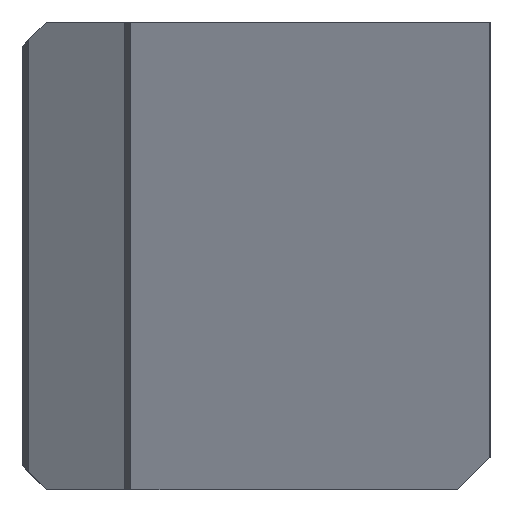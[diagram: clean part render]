
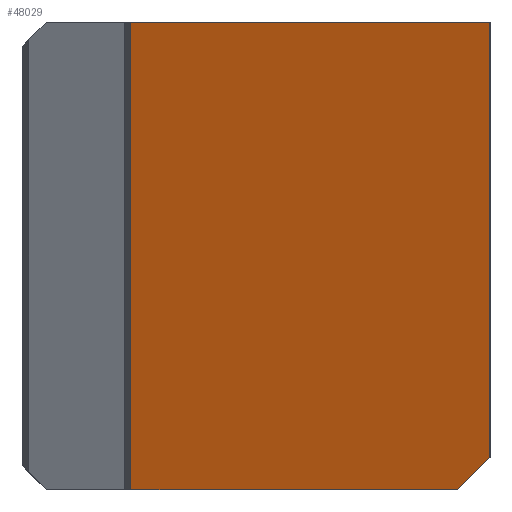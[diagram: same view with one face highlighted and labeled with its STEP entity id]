
A CAD part, left-side view. The second image highlights one B-rep face of the part: STEP entity #48029.
In plain terms, the highlighted planar face has unit normal (-0.943, 0, -0.334).
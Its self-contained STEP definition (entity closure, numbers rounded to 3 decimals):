
#337 = EDGE_LOOP ( 'NONE', ( #64484, #56455, #29642, #25631, #66115 ) ) ;
#1961 = DIRECTION ( 'NONE',  ( -0.942, 0., -0.334 ) ) ;
#3051 = CARTESIAN_POINT ( 'NONE',  ( 9.576, 0., -27. ) ) ;
#4149 = VERTEX_POINT ( 'NONE', #28104 ) ;
#6260 = CARTESIAN_POINT ( 'NONE',  ( 0., 29., 0. ) ) ;
#12596 = VECTOR ( 'NONE', #53595, 1000. ) ;
#12636 = EDGE_CURVE ( 'NONE', #4149, #37244, #61326, .T. ) ;
#14178 = CARTESIAN_POINT ( 'NONE',  ( 10.286, 0., -29. ) ) ;
#19088 = CARTESIAN_POINT ( 'NONE',  ( 0., 0., 0. ) ) ;
#20143 = VERTEX_POINT ( 'NONE', #37243 ) ;
#22812 = VECTOR ( 'NONE', #28086, 1000. ) ;
#25293 = EDGE_CURVE ( 'NONE', #20143, #4149, #45185, .T. ) ;
#25631 = ORIENTED_EDGE ( 'NONE', *, *, #12636, .F. ) ;
#26356 = DIRECTION ( 'NONE',  ( -0.243, -0.686, 0.686 ) ) ;
#27082 = LINE ( 'NONE', #49658, #50505 ) ;
#28086 = DIRECTION ( 'NONE',  ( -0.334, 0., 0.942 ) ) ;
#28104 = CARTESIAN_POINT ( 'NONE',  ( 0., 22.25, 0. ) ) ;
#28708 = CARTESIAN_POINT ( 'NONE',  ( 10.286, 2., -29. ) ) ;
#29642 = ORIENTED_EDGE ( 'NONE', *, *, #55383, .F. ) ;
#30664 = CARTESIAN_POINT ( 'NONE',  ( 10.286, 29., -29. ) ) ;
#32423 = DIRECTION ( 'NONE',  ( 0.334, 0., -0.942 ) ) ;
#34612 = CARTESIAN_POINT ( 'NONE',  ( 0., 22.25, 0. ) ) ;
#35127 = FACE_OUTER_BOUND ( 'NONE', #337, .T. ) ;
#37207 = LINE ( 'NONE', #30664, #12596 ) ;
#37243 = CARTESIAN_POINT ( 'NONE',  ( 10.286, 22.25, -29. ) ) ;
#37244 = VERTEX_POINT ( 'NONE', #45068 ) ;
#44909 = DIRECTION ( 'NONE',  ( 0., -1., 0. ) ) ;
#45068 = CARTESIAN_POINT ( 'NONE',  ( 0., 0., 0. ) ) ;
#45185 = LINE ( 'NONE', #34612, #22812 ) ;
#46337 = AXIS2_PLACEMENT_3D ( 'NONE', #19088, #1961, #63538 ) ;
#47238 = VECTOR ( 'NONE', #32423, 1000. ) ;
#48029 = ADVANCED_FACE ( 'NONE', ( #35127 ), #58083, .T. ) ;
#48518 = EDGE_CURVE ( 'NONE', #50307, #20143, #37207, .T. ) ;
#49658 = CARTESIAN_POINT ( 'NONE',  ( 4.505, -14.299, -12.701 ) ) ;
#50307 = VERTEX_POINT ( 'NONE', #28708 ) ;
#50505 = VECTOR ( 'NONE', #26356, 1000. ) ;
#53054 = EDGE_CURVE ( 'NONE', #50307, #63071, #27082, .T. ) ;
#53595 = DIRECTION ( 'NONE',  ( 0., 1., 0. ) ) ;
#55383 = EDGE_CURVE ( 'NONE', #37244, #63071, #64122, .T. ) ;
#56455 = ORIENTED_EDGE ( 'NONE', *, *, #53054, .T. ) ;
#58083 = PLANE ( 'NONE',  #46337 ) ;
#61326 = LINE ( 'NONE', #6260, #65586 ) ;
#63071 = VERTEX_POINT ( 'NONE', #3051 ) ;
#63538 = DIRECTION ( 'NONE',  ( -0.334, 0., 0.942 ) ) ;
#64122 = LINE ( 'NONE', #14178, #47238 ) ;
#64484 = ORIENTED_EDGE ( 'NONE', *, *, #48518, .F. ) ;
#65586 = VECTOR ( 'NONE', #44909, 1000. ) ;
#66115 = ORIENTED_EDGE ( 'NONE', *, *, #25293, .F. ) ;
